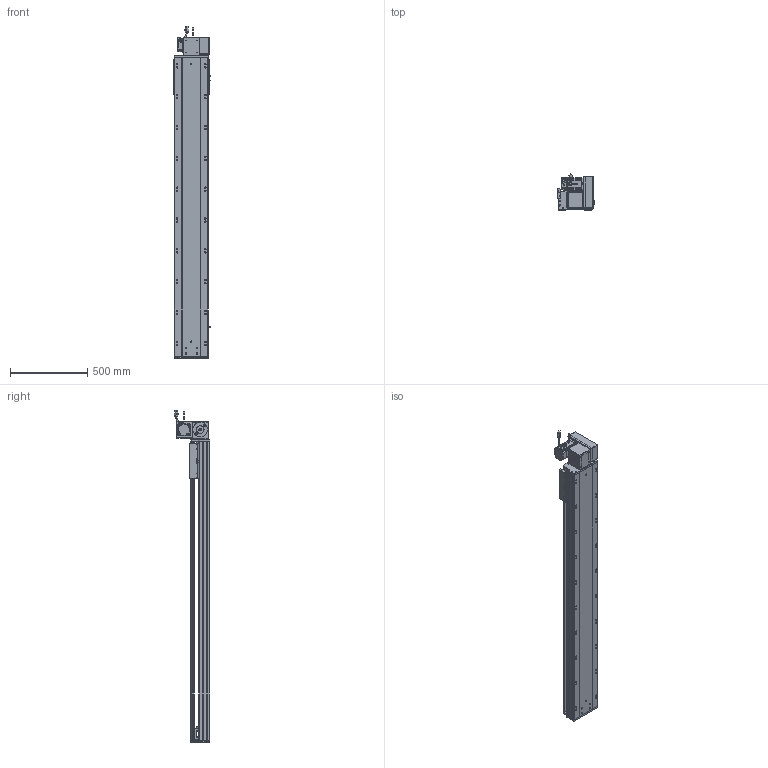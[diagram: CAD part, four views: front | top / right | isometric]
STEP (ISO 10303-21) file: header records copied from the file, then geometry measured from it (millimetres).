
FILE_DESCRIPTION (( 'STEP AP203' ), '1' );
FILE_NAME ('RY220-T-300-UR.SLDASM_1600.step', '2022-07-25T08:44:09', ( '' ), ( '' ), 'SwSTEP 2.0', 'SolidWorks 2016', '' );
FILE_SCHEMA (( 'CONFIG_CONTROL_DESIGN' ));
Length unit declared in the file: millimetre
Products named in the file (14): RY220圉猾敕々湍臏賑輸; RY220-同步轮副支撑座6304×2; RY220-T-300-奻裔啣_1600; RY220-T-湍謫欶(鍼踢); RY220翋肮祭謫裔啣; RY220-俋离672覜茼んえ; 110A-T-肮祭謫釱傷裔; RY220翋肮祭謫釱; 滅袉蝶18-15; RY220-T菁釱-300_1600; RY220-T-蛌殏萇儂假蚾啣(750W); 覜茼ん672; 怢湛750W_ECMA-CX0807ES; RY220-T-300-UR.SLDASM_1600
Assembly tree (18 placements, depth 2):
  RY220-T-300-UR.SLDASM_1600
    RY220-T菁釱-300_1600
    RY220翋肮祭謫釱
    覜茼ん672  x3
    RY220圉猾敕々湍臏賑輸
    RY220-T-300-奻裔啣_1600
    RY220-俋离672覜茼んえ
    滅袉蝶18-15  x3
    RY220翋肮祭謫裔啣  x2
    110A-T-肮祭謫釱傷裔
    怢湛750W_ECMA-CX0807ES
    RY220-T-湍謫欶(鍼踢)
    RY220-T-蛌殏萇儂假蚾啣(750W)
    RY220-同步轮副支撑座6304×2
Bounding box: 238.7 x 231.74 x 2153.27 mm (x, y, z)
Volume: 16144973.6 mm3; surface area: 4845700.5 mm2
Topology: 19 solids, 19 shells, 2746 faces, 7579 edges, 4786 vertices
Faces by surface type: cylinder 1306, plane 1069, cone 289, bspline 56, sphere 16, torus 10
Entity records: 91331 total; most frequent: CARTESIAN_POINT 25931, ORIENTED_EDGE 13562, DIRECTION 12912, EDGE_CURVE 6781, AXIS2_PLACEMENT_3D 4596, VERTEX_POINT 4410, LINE 3720, VECTOR 3720
